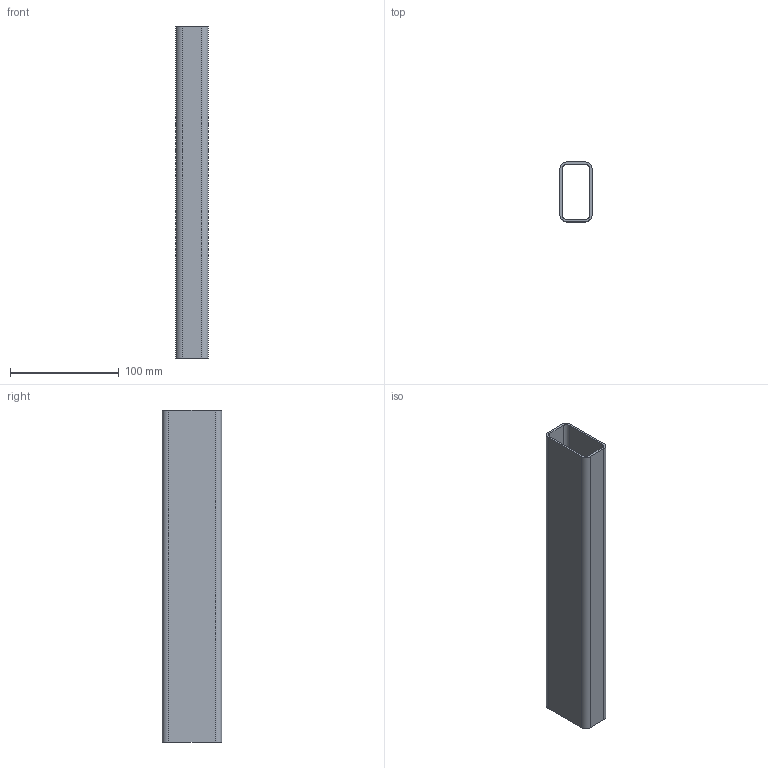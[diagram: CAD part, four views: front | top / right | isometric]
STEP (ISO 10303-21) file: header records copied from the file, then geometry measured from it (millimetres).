
FILE_DESCRIPTION (( 'STEP AP214' ), '1' );
FILE_NAME ('DRP-002-0001-14.STEP', '2011-12-07T21:22:54', ( 'Allred & Associates' ), ( 'Allred & Associates' ), 'SwSTEP 2.0', 'SolidWorks 2011', '' );
FILE_SCHEMA (( 'AUTOMOTIVE_DESIGN' ));
Length unit declared in the file: inch
Products named in the file (1): DRP-002-0001-14
Bounding box: 29.46 x 54.61 x 304.8 mm (x, y, z)
Volume: 99714 mm3; surface area: 93024.8 mm2
Topology: 1 solids, 1 shells, 18 faces, 48 edges, 32 vertices
Faces by surface type: plane 10, cylinder 8
Entity records: 612 total; most frequent: DIRECTION 102, CARTESIAN_POINT 99, ORIENTED_EDGE 96, EDGE_CURVE 48, AXIS2_PLACEMENT_3D 35, VECTOR 32, VERTEX_POINT 32, LINE 32
